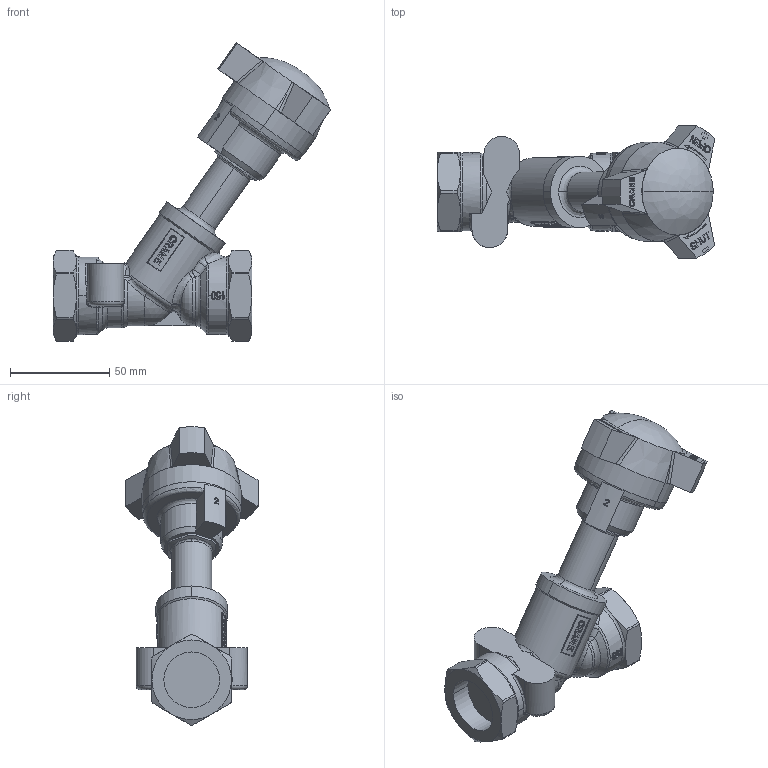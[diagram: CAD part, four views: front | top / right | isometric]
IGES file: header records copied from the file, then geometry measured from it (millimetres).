
Global section: file name: No Iges File Name specified; native system: AutoDesk Inventor R12.0; preprocessor: AutoDesk Inventor Iges Exporter R12.0; date: 20110304.145638; units: millimetre
Bounding box: 139.7 x 66.44 x 149.98 mm (x, y, z)
Volume: 224024.3 mm3; surface area: 35150.3 mm2
Topology: 1 solids, 1 shells, 747 faces, 2050 edges, 1346 vertices
Faces by surface type: bspline 338, plane 291, cylinder 66, cone 36, torus 10, revolution 4, sphere 2
